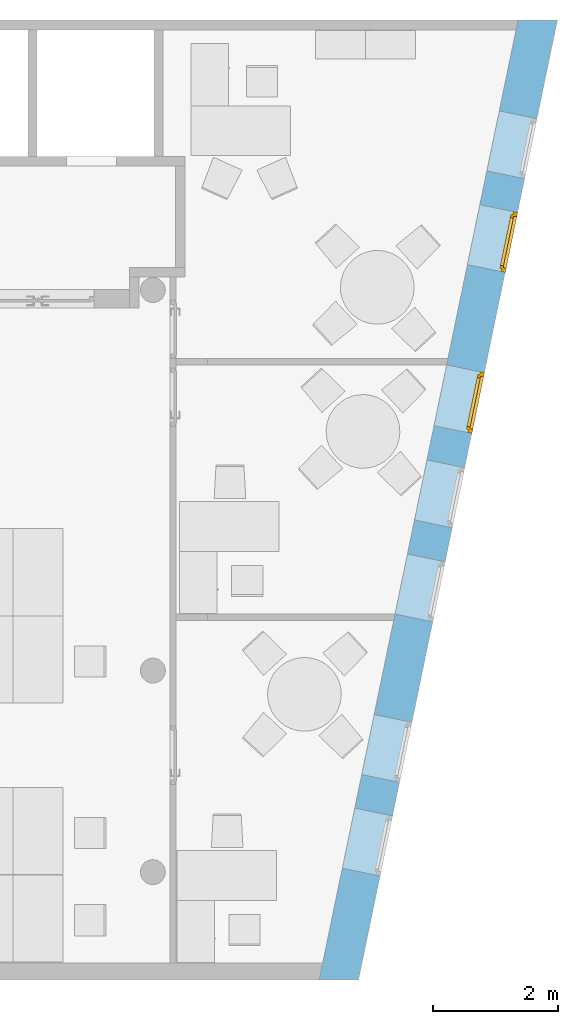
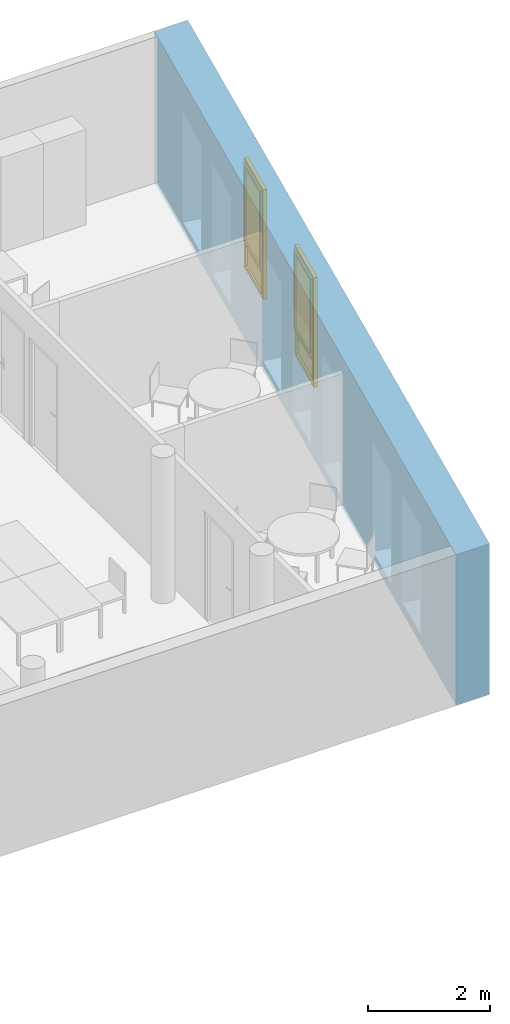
"""IFC4 building model written with IfcOpenShell, lengths in metres."""

from ifc_helpers import new_model, entity, si_unit, converted_unit, derived_unit, frame, origin, origin_with_axes, place, context, subcontext, project, spatial, polyline, outline, extrude, closed_shell, open_shell, surface_model, source, transform, mapped, material, layer, layer_set, layer_usage, type_object, element, fill, save


model = new_model("IFC4")

# Units and contexts
model_context = context("Model", 3, precision=1e-05, world=origin())
body_context = subcontext(model_context, "Body", "Model", "MODEL_VIEW")
ifc_project = project(units=[si_unit("LENGTHUNIT", "METRE"), si_unit("AREAUNIT", "SQUARE_METRE"), si_unit("VOLUMEUNIT", "CUBIC_METRE"), si_unit("MASSUNIT", "GRAM", prefix="KILO"), converted_unit("PLANEANGLEUNIT", "DEGREE", entity("IfcPlaneAngleMeasure", 0.0174532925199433), si_unit("PLANEANGLEUNIT", "RADIAN"), dimensions=[0, 0, 0, 0, 0, 0, 0]), derived_unit("THERMALTRANSMITTANCEUNIT", [(si_unit("POWERUNIT", "WATT"), 1), (si_unit("THERMODYNAMICTEMPERATUREUNIT", "KELVIN"), -1), (si_unit("LENGTHUNIT", "METRE"), -2)]), derived_unit("VOLUMETRICFLOWRATEUNIT", [(si_unit("LENGTHUNIT", "METRE"), 3), (converted_unit("TIMEUNIT", "hour", entity("IfcTimeMeasure", 3600.0), si_unit("TIMEUNIT", "SECOND"), dimensions=[0, 0, 1, 0, 0, 0, 0]), -1), (si_unit("LENGTHUNIT", "METRE"), -1)])], contexts=[model_context])

# Building, storeys
building_placement = place(None, origin())
building = spatial("IfcBuilding", under=ifc_project, at=building_placement, Name="HABITATGE PLURIFAMILIAR", CompositionType="ELEMENT")
storey_1_placement = place(building_placement, frame((0.0, 0.0, 12.27)))
storey_1 = spatial("IfcBuildingStorey", under=building, at=storey_1_placement, Name="PLANTA TERCERA", CompositionType="ELEMENT", Elevation=12.27)
storey_2_placement = place(storey_1_placement, frame((0.0, 0.0, 9.26)))
storey_2 = spatial("IfcBuildingStorey", under=storey_1, at=storey_2_placement, Name="NOU", CompositionType="PARTIAL")

# Wall, openings, doors
ifc_material = material()
ifc_layer = layer(ifc_material, 0.620000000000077)
ifc_layer_set = layer_set([ifc_layer])
ifc_layer_usage = layer_usage(ifc_layer_set, "AXIS2", "POSITIVE", 0.0)
wall_placement = place(storey_2_placement, frame((424.290656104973, 12.8406121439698, -9.36), z_axis=(0.0, 0.0, 1.0), x_axis=(0.202927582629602, 0.979193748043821, 0.0)))
wall = element("IfcWall", 1, at=wall_placement, inside=storey_2, material=ifc_layer_usage, Name="Façana sur-est P3", context=body_context, shape_type="SweptSolid", body=[
    extrude(outline(polyline([(0.128488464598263, -0.620000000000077), (15.8430861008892, -0.620000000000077), (15.7145976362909, 0.0), (0.0, 0.0), (0.128488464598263, -0.620000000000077)])), frame((-0.128488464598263, 0.620000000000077, 0.0), z_axis=(0.0, 0.0, 1.0), x_axis=(1.0, 0.0, 0.0)), (0.0, 0.0, 1.0), 3.01),
])
opening_1_placement = place(wall_placement, frame((11.5811554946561, 0.0, 0.19), z_axis=(5.86770775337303e-15, 1.0, 0.0), x_axis=(0.0, 0.0, 1.0)))
opening_1 = element("IfcOpeningElement", 2, at=opening_1_placement, cuts=wall, Name="Vano finestra P3", ObjectType="Opening", context=body_context, shape_type="SweptSolid", body=[
    extrude(outline(polyline([(2.19, 0.982158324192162), (2.19, 0.0), (0.0, 0.0), (0.0, 0.982158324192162), (2.19, 0.982158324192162)])), origin_with_axes(), (0.0, 0.0, 1.0), 0.620000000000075),
])
opening_2_placement = place(wall_placement, frame((13.1155732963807, 0.0, 0.19), z_axis=(2.64046848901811e-14, 1.0, 0.0), x_axis=(0.0, 0.0, 1.0)))
element("IfcOpeningElement", 3, at=opening_2_placement, cuts=wall, Name="Vano finestra P3", ObjectType="Opening", context=body_context, shape_type="SweptSolid", body=[
    extrude(outline(polyline([(2.19, 0.983523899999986), (2.19, 0.0), (0.0, 0.0), (0.0, 0.983523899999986), (2.19, 0.983523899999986)])), origin_with_axes(), (0.0, 0.0, 1.0), 0.620000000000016),
])
opening_3_placement = place(wall_placement, frame((1.70166703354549, 0.0, 0.19), z_axis=(-3.08054657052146e-14, 1.0, 0.0), x_axis=(0.0, 0.0, 1.0)))
element("IfcOpeningElement", 4, at=opening_3_placement, cuts=wall, Name="Vano finestra P3", ObjectType="Opening", context=body_context, shape_type="SweptSolid", body=[
    extrude(outline(polyline([(2.19, 0.9835239), (2.19, 0.0), (0.0, 0.0), (0.0, 0.9835239), (2.19, 0.9835239)])), origin_with_axes(), (0.0, 0.0, 1.0), 0.619999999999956),
])
opening_4_placement = place(wall_placement, frame((5.8616613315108, 0.0, 0.19), z_axis=(2.49377579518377e-14, 1.0, 0.0), x_axis=(0.0, 0.0, 1.0)))
element("IfcOpeningElement", 5, at=opening_4_placement, cuts=wall, Name="Vano finestra P3", ObjectType="Opening", context=body_context, shape_type="SweptSolid", body=[
    extrude(outline(polyline([(2.19, 0.9835239), (2.19, 0.0), (0.0, 0.0), (0.0, 0.9835239), (2.19, 0.9835239)])), origin_with_axes(), (0.0, 0.0, 1.0), 0.620000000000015),
])
opening_5_placement = place(wall_placement, frame((3.2339604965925, 0.0, 0.19), z_axis=(2.27373675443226e-14, 1.0, 0.0), x_axis=(0.0, 0.0, 1.0)))
element("IfcOpeningElement", 6, at=opening_5_placement, cuts=wall, Name="Vano finestra P3", ObjectType="Opening", context=body_context, shape_type="SweptSolid", body=[
    extrude(outline(polyline([(2.19, 0.9835239), (2.19, 0.0), (0.0, 0.0), (0.0, 0.9835239), (2.19, 0.9835239)])), origin_with_axes(), (0.0, 0.0, 1.0), 0.620000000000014),
])
opening_6_placement = place(wall_placement, frame((7.40166059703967, 0.0, 0.19), z_axis=(-3.96070273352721e-14, 1.0, 0.0), x_axis=(0.0, 0.0, 1.0)))
element("IfcOpeningElement", 7, at=opening_6_placement, cuts=wall, Name="Vano finestra P3", ObjectType="Opening", context=body_context, shape_type="SweptSolid", body=[
    extrude(outline(polyline([(2.19, 0.9835239), (2.19, 0.0), (0.0, 0.0), (0.0, 0.9835239), (2.19, 0.9835239)])), origin_with_axes(), (0.0, 0.0, 1.0), 0.620000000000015),
])
opening_7_placement = place(wall_placement, frame((8.94601954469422, 0.0, 0.19), z_axis=(0.0, 1.0, 0.0), x_axis=(0.0, 0.0, 1.0)))
opening_7 = element("IfcOpeningElement", 8, at=opening_7_placement, cuts=wall, Name="Vano finestra P3", ObjectType="Opening", context=body_context, shape_type="SweptSolid", body=[
    extrude(outline(polyline([(2.19, 0.995133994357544), (2.19, 0.0), (0.0, 0.0), (0.0, 0.995133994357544), (2.19, 0.995133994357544)])), origin_with_axes(), (0.0, 0.0, 1.0), 0.620000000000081),
])
door_type_1 = type_object("IfcDoorType", Name="Finestra P3", OperationType="NOTDEFINED", ParameterTakesPrecedence=False, PredefinedType="DOOR")
shared_shape_1 = source(origin_with_axes(), body_context, "Body", "SurfaceModel", [
    surface_model("IfcShellBasedSurfaceModel", [(0.0, 0.0700000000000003, 2.19), (0.0, 0.07, 0.0), (0.07, 0.07, 0.0), (0.07, 0.0700000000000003, 2.19), (0.0, 0.0, 0.0), (0.0, 0.0, 2.19), (0.07, 0.0, 2.19), (0.07, 0.0, 0.0)], [closed_shell([[[0, 1, 2, 3]], [[4, 5, 6, 7]], [[1, 0, 5, 4]], [[2, 1, 4, 7]], [[3, 2, 7, 6]], [[0, 3, 6, 5]]], orient=[[False], [False], [False], [False], [False], [False]])]),
    surface_model("IfcShellBasedSurfaceModel", [(0.912158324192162, 0.0700000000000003, 2.19), (0.912158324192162, 0.07, 0.0), (0.982158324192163, 0.07, 0.0), (0.982158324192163, 0.0700000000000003, 2.19), (0.912158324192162, 0.0, 0.0), (0.912158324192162, 0.0, 2.19), (0.982158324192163, 0.0, 2.19), (0.982158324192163, 0.0, 0.0)], [closed_shell([[[0, 1, 2, 3]], [[4, 5, 6, 7]], [[1, 0, 5, 4]], [[2, 1, 4, 7]], [[3, 2, 7, 6]], [[0, 3, 6, 5]]], orient=[[False], [False], [False], [False], [False], [False]])]),
    surface_model("IfcShellBasedSurfaceModel", [(0.07, 0.07, 0.07), (0.07, 0.07, 0.0), (0.912158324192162, 0.07, 0.0), (0.912158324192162, 0.07, 0.07), (0.07, 0.0, 0.0), (0.07, 0.0, 0.07), (0.912158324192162, 0.0, 0.07), (0.912158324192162, 0.0, 0.0)], [closed_shell([[[0, 1, 2, 3]], [[4, 5, 6, 7]], [[1, 0, 5, 4]], [[2, 1, 4, 7]], [[3, 2, 7, 6]], [[0, 3, 6, 5]]], orient=[[False], [False], [False], [False], [False], [False]])]),
    surface_model("IfcShellBasedSurfaceModel", [(0.07, 0.0700000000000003, 2.19), (0.07, 0.0700000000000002, 2.12), (0.912158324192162, 0.0700000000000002, 2.12), (0.912158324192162, 0.0700000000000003, 2.19), (0.07, 0.0, 2.12), (0.07, 0.0, 2.19), (0.912158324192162, 0.0, 2.19), (0.912158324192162, 0.0, 2.12)], [closed_shell([[[0, 1, 2, 3]], [[4, 5, 6, 7]], [[1, 0, 5, 4]], [[2, 1, 4, 7]], [[3, 2, 7, 6]], [[0, 3, 6, 5]]], orient=[[False], [False], [False], [False], [False], [False]])]),
    surface_model("IfcShellBasedSurfaceModel", [(0.07, 0.035, 0.07), (0.912158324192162, 0.035, 0.07), (0.912158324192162, 0.0350000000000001, 0.57), (0.07, 0.0350000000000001, 0.57)], [open_shell([[[0, 1, 2, 3]]], orient=[[False]])]),
    surface_model("IfcShellBasedSurfaceModel", [(0.05, 0.1, 2.14), (0.05, 0.1, 0.551), (0.1, 0.1, 0.551), (0.1, 0.1, 2.14), (0.05, 0.0500000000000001, 0.551), (0.05, 0.0500000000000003, 2.14), (0.1, 0.0500000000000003, 2.14), (0.1, 0.0500000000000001, 0.551)], [closed_shell([[[0, 1, 2, 3]], [[4, 5, 6, 7]], [[1, 0, 5, 4]], [[2, 1, 4, 7]], [[3, 2, 7, 6]], [[0, 3, 6, 5]]], orient=[[False], [False], [False], [False], [False], [False]])]),
    surface_model("IfcShellBasedSurfaceModel", [(0.882158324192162, 0.1, 2.14), (0.882158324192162, 0.1, 0.551), (0.932158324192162, 0.1, 0.551), (0.932158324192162, 0.1, 2.14), (0.882158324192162, 0.0500000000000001, 0.551), (0.882158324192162, 0.0500000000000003, 2.14), (0.932158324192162, 0.0500000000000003, 2.14), (0.932158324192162, 0.0500000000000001, 0.551)], [closed_shell([[[0, 1, 2, 3]], [[4, 5, 6, 7]], [[1, 0, 5, 4]], [[2, 1, 4, 7]], [[3, 2, 7, 6]], [[0, 3, 6, 5]]], orient=[[False], [False], [False], [False], [False], [False]])]),
    surface_model("IfcShellBasedSurfaceModel", [(0.1, 0.1, 0.601), (0.1, 0.1, 0.551), (0.882158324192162, 0.1, 0.551), (0.882158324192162, 0.1, 0.601), (0.1, 0.0500000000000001, 0.551), (0.1, 0.0500000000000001, 0.601), (0.882158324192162, 0.0500000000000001, 0.601), (0.882158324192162, 0.0500000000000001, 0.551)], [closed_shell([[[0, 1, 2, 3]], [[4, 5, 6, 7]], [[1, 0, 5, 4]], [[2, 1, 4, 7]], [[3, 2, 7, 6]], [[0, 3, 6, 5]]], orient=[[False], [False], [False], [False], [False], [False]])]),
    surface_model("IfcShellBasedSurfaceModel", [(0.1, 0.1, 2.14), (0.1, 0.1, 2.09), (0.882158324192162, 0.1, 2.09), (0.882158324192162, 0.1, 2.14), (0.1, 0.0500000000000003, 2.09), (0.1, 0.0500000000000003, 2.14), (0.882158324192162, 0.0500000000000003, 2.14), (0.882158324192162, 0.0500000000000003, 2.09)], [closed_shell([[[0, 1, 2, 3]], [[4, 5, 6, 7]], [[1, 0, 5, 4]], [[2, 1, 4, 7]], [[3, 2, 7, 6]], [[0, 3, 6, 5]]], orient=[[False], [False], [False], [False], [False], [False]])]),
    surface_model("IfcShellBasedSurfaceModel", [(0.1, 0.0750000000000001, 0.601), (0.882158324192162, 0.0750000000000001, 0.601), (0.882158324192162, 0.0750000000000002, 2.09), (0.1, 0.0750000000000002, 2.09)], [open_shell([[[0, 1, 2, 3]]], orient=[[False]])]),
])
door_1_placement = place(opening_1_placement, frame((0.0, 0.0, 0.0), z_axis=(1.0, 0.0, 0.0), x_axis=(0.0, 0.999999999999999, 1.94289029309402e-15)))
door_1 = element("IfcDoor", 9, at=door_1_placement, inside=storey_2, type_object=door_type_1, Name="Finestra P3", OverallHeight=2.19, OverallWidth=0.98216, context=body_context, shape_type="MappedRepresentation", body=[
    mapped(shared_shape_1, transform((0.0, 0.0, 0.0), x_axis=(1.0, 0.0, 0.0), y_axis=(0.0, 1.0, 0.0), z_axis=(0.0, 0.0, 1.0), scale=0.999999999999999)),
])
fill(opening_1, door_1)
door_type_2 = type_object("IfcDoorType", Name="Finestra P3", OperationType="NOTDEFINED", ParameterTakesPrecedence=False, PredefinedType="DOOR")
shared_shape_2 = source(origin_with_axes(), body_context, "Body", "SurfaceModel", [
    surface_model("IfcShellBasedSurfaceModel", [(0.0, 0.0700000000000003, 2.19), (0.0, 0.07, 0.0), (0.07, 0.07, 0.0), (0.07, 0.0700000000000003, 2.19), (0.0, 0.0, 0.0), (0.0, 0.0, 2.19), (0.07, 0.0, 2.19), (0.07, 0.0, 0.0)], [closed_shell([[[0, 1, 2, 3]], [[4, 5, 6, 7]], [[1, 0, 5, 4]], [[2, 1, 4, 7]], [[3, 2, 7, 6]], [[0, 3, 6, 5]]], orient=[[False], [False], [False], [False], [False], [False]])]),
    surface_model("IfcShellBasedSurfaceModel", [(0.925133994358, 0.0700000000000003, 2.19), (0.925133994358, 0.07, 0.0), (0.995133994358, 0.07, 0.0), (0.995133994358, 0.0700000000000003, 2.19), (0.925133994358, 0.0, 0.0), (0.925133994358, 0.0, 2.19), (0.995133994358, 0.0, 2.19), (0.995133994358, 0.0, 0.0)], [closed_shell([[[0, 1, 2, 3]], [[4, 5, 6, 7]], [[1, 0, 5, 4]], [[2, 1, 4, 7]], [[3, 2, 7, 6]], [[0, 3, 6, 5]]], orient=[[False], [False], [False], [False], [False], [False]])]),
    surface_model("IfcShellBasedSurfaceModel", [(0.07, 0.07, 0.07), (0.07, 0.07, 0.0), (0.925133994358, 0.07, 0.0), (0.925133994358, 0.07, 0.07), (0.07, 0.0, 0.0), (0.07, 0.0, 0.07), (0.925133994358, 0.0, 0.07), (0.925133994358, 0.0, 0.0)], [closed_shell([[[0, 1, 2, 3]], [[4, 5, 6, 7]], [[1, 0, 5, 4]], [[2, 1, 4, 7]], [[3, 2, 7, 6]], [[0, 3, 6, 5]]], orient=[[False], [False], [False], [False], [False], [False]])]),
    surface_model("IfcShellBasedSurfaceModel", [(0.07, 0.0700000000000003, 2.19), (0.07, 0.0700000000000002, 2.12), (0.925133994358, 0.0700000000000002, 2.12), (0.925133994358, 0.0700000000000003, 2.19), (0.07, 0.0, 2.12), (0.07, 0.0, 2.19), (0.925133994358, 0.0, 2.19), (0.925133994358, 0.0, 2.12)], [closed_shell([[[0, 1, 2, 3]], [[4, 5, 6, 7]], [[1, 0, 5, 4]], [[2, 1, 4, 7]], [[3, 2, 7, 6]], [[0, 3, 6, 5]]], orient=[[False], [False], [False], [False], [False], [False]])]),
    surface_model("IfcShellBasedSurfaceModel", [(0.07, 0.035, 0.07), (0.925133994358, 0.035, 0.07), (0.925133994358, 0.0350000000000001, 0.57), (0.07, 0.0350000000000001, 0.57)], [open_shell([[[0, 1, 2, 3]]], orient=[[False]])]),
    surface_model("IfcShellBasedSurfaceModel", [(0.05, 0.1, 2.14), (0.05, 0.1, 0.551), (0.1, 0.1, 0.551), (0.1, 0.1, 2.14), (0.05, 0.0500000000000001, 0.551), (0.05, 0.0500000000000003, 2.14), (0.1, 0.0500000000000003, 2.14), (0.1, 0.0500000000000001, 0.551)], [closed_shell([[[0, 1, 2, 3]], [[4, 5, 6, 7]], [[1, 0, 5, 4]], [[2, 1, 4, 7]], [[3, 2, 7, 6]], [[0, 3, 6, 5]]], orient=[[False], [False], [False], [False], [False], [False]])]),
    surface_model("IfcShellBasedSurfaceModel", [(0.895133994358, 0.1, 2.14), (0.895133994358, 0.1, 0.551), (0.945133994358, 0.1, 0.551), (0.945133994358, 0.1, 2.14), (0.895133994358, 0.0500000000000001, 0.551), (0.895133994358, 0.0500000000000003, 2.14), (0.945133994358, 0.0500000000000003, 2.14), (0.945133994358, 0.0500000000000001, 0.551)], [closed_shell([[[0, 1, 2, 3]], [[4, 5, 6, 7]], [[1, 0, 5, 4]], [[2, 1, 4, 7]], [[3, 2, 7, 6]], [[0, 3, 6, 5]]], orient=[[False], [False], [False], [False], [False], [False]])]),
    surface_model("IfcShellBasedSurfaceModel", [(0.1, 0.1, 0.601), (0.1, 0.1, 0.551), (0.895133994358, 0.1, 0.551), (0.895133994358, 0.1, 0.601), (0.1, 0.0500000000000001, 0.551), (0.1, 0.0500000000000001, 0.601), (0.895133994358, 0.0500000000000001, 0.601), (0.895133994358, 0.0500000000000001, 0.551)], [closed_shell([[[0, 1, 2, 3]], [[4, 5, 6, 7]], [[1, 0, 5, 4]], [[2, 1, 4, 7]], [[3, 2, 7, 6]], [[0, 3, 6, 5]]], orient=[[False], [False], [False], [False], [False], [False]])]),
    surface_model("IfcShellBasedSurfaceModel", [(0.1, 0.1, 2.14), (0.1, 0.1, 2.09), (0.895133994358, 0.1, 2.09), (0.895133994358, 0.1, 2.14), (0.1, 0.0500000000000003, 2.09), (0.1, 0.0500000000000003, 2.14), (0.895133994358, 0.0500000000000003, 2.14), (0.895133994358, 0.0500000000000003, 2.09)], [closed_shell([[[0, 1, 2, 3]], [[4, 5, 6, 7]], [[1, 0, 5, 4]], [[2, 1, 4, 7]], [[3, 2, 7, 6]], [[0, 3, 6, 5]]], orient=[[False], [False], [False], [False], [False], [False]])]),
    surface_model("IfcShellBasedSurfaceModel", [(0.1, 0.0750000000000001, 0.601), (0.895133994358, 0.0750000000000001, 0.601), (0.895133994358, 0.0750000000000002, 2.09), (0.1, 0.0750000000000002, 2.09)], [open_shell([[[0, 1, 2, 3]]], orient=[[False]])]),
])
door_2_placement = place(opening_7_placement, frame((0.0, 0.0, 0.0), z_axis=(1.0, 0.0, 0.0), x_axis=(0.0, 0.999999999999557, 5.88418203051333e-15)))
door_2 = element("IfcDoor", 10, at=door_2_placement, inside=storey_2, type_object=door_type_2, Name="Finestra P3", OverallHeight=2.19, OverallWidth=0.99513, context=body_context, shape_type="MappedRepresentation", body=[
    mapped(shared_shape_2, transform((0.0, 0.0, 0.0), x_axis=(1.0, 0.0, 0.0), y_axis=(0.0, 1.0, 0.0), z_axis=(0.0, 0.0, 1.0), scale=0.999999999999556)),
])
fill(opening_7, door_2)

save(model, "model.ifc")
